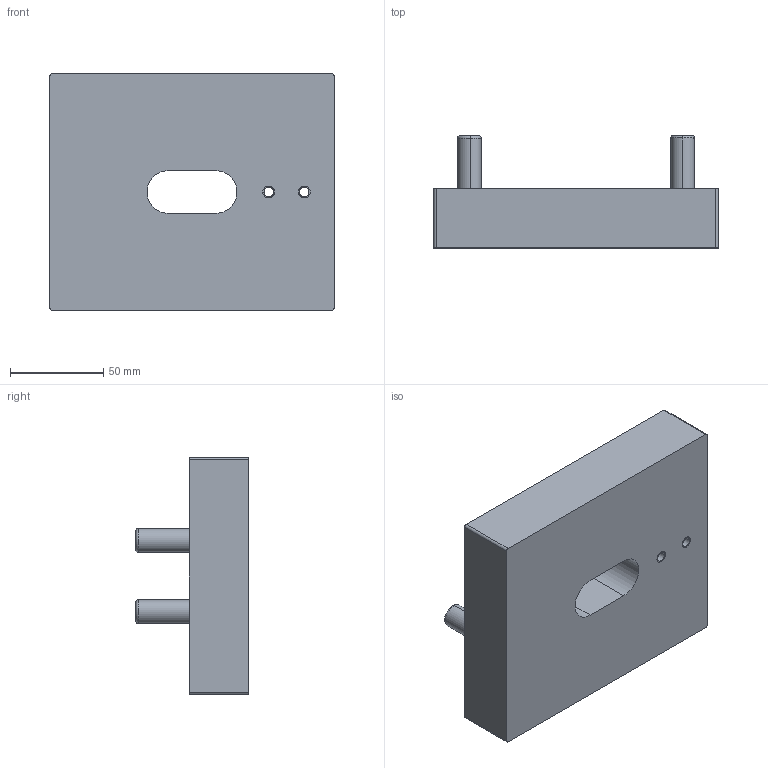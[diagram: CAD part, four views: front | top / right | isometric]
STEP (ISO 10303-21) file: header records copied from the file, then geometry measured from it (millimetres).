
FILE_DESCRIPTION (( 'STEP AP214' ), '1' );
FILE_NAME ('DIE BLOCK ASSEMBLY.STEP', '2020-05-25T15:54:59', ( '' ), ( '' ), 'SwSTEP 2.0', 'SolidWorks 2020', '' );
FILE_SCHEMA (( 'AUTOMOTIVE_DESIGN' ));
Length unit declared in the file: inch
Products named in the file (4): DOWEL D0.5; PRESSFIT BUTTON; DIE BLOCK ASSEMBLY; DIE PLATE
Assembly tree (5 placements, depth 2):
  DIE BLOCK ASSEMBLY
    DIE PLATE
    DOWEL D0.5  x2
    PRESSFIT BUTTON  x2
Bounding box: 152.4 x 60.33 x 127 mm (x, y, z)
Volume: 588749.4 mm3; surface area: 65874 mm2
Topology: 5 solids, 5 shells, 55 faces, 119 edges, 78 vertices
Faces by surface type: cylinder 31, plane 20, torus 4
Entity records: 1435 total; most frequent: DIRECTION 253, CARTESIAN_POINT 212, ORIENTED_EDGE 194, AXIS2_PLACEMENT_3D 105, EDGE_CURVE 97, VERTEX_POINT 64, EDGE_LOOP 55, CIRCLE 54
